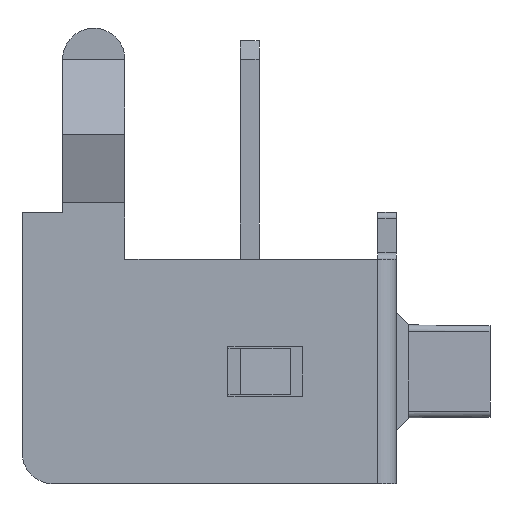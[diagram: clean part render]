
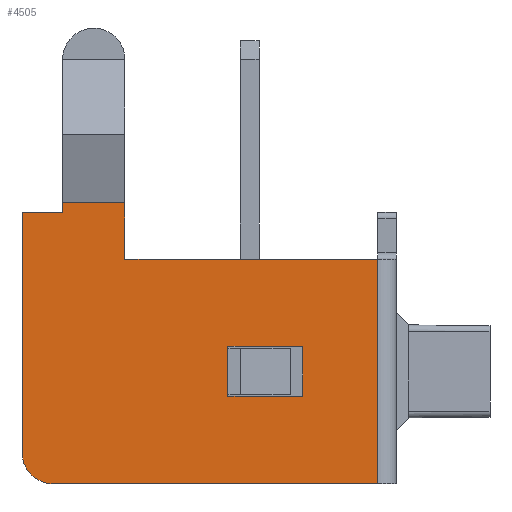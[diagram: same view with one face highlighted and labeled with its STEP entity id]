
A CAD part, left-side view. The second image highlights one B-rep face of the part: STEP entity #4505.
In plain terms, the highlighted planar face has unit normal (-1, 0, 0).
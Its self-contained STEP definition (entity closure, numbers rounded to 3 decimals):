
#3562=DIRECTION('',(0.,0.,-1.));
#3563=VECTOR('',#3562,0.8);
#3564=CARTESIAN_POINT('',(-3.75,2.4,0.4));
#3565=LINE('',#3564,#3563);
#3566=DIRECTION('',(0.,-1.,0.));
#3567=VECTOR('',#3566,1.2);
#3568=CARTESIAN_POINT('',(-3.75,2.4,-0.4));
#3569=LINE('',#3568,#3567);
#3570=DIRECTION('',(0.,0.,1.));
#3571=VECTOR('',#3570,0.8);
#3572=CARTESIAN_POINT('',(-3.75,1.2,-0.4));
#3573=LINE('',#3572,#3571);
#3574=DIRECTION('',(0.,1.,0.));
#3575=VECTOR('',#3574,1.2);
#3576=CARTESIAN_POINT('',(-3.75,1.2,0.4));
#3577=LINE('',#3576,#3575);
#3578=DIRECTION('',(0.,1.,0.));
#3579=VECTOR('',#3578,1.);
#3580=CARTESIAN_POINT('',(-3.75,4.05,2.7));
#3581=LINE('',#3580,#3579);
#3582=DIRECTION('',(0.,1.,0.));
#3583=VECTOR('',#3582,4.05);
#3584=CARTESIAN_POINT('',(-3.75,0.,1.8));
#3585=LINE('',#3584,#3583);
#3586=DIRECTION('',(0.,-1.,0.));
#3587=VECTOR('',#3586,5.2);
#3588=CARTESIAN_POINT('',(-3.75,5.2,-1.8));
#3589=LINE('',#3588,#3587);
#3590=CARTESIAN_POINT('',(-3.75,5.2,-1.3));
#3591=DIRECTION('',(-1.,0.,0.));
#3592=DIRECTION('',(0.,1.,0.));
#3593=AXIS2_PLACEMENT_3D('',#3590,#3591,#3592);
#3595=DIRECTION('',(0.,-1.,0.));
#3596=VECTOR('',#3595,0.65);
#3597=CARTESIAN_POINT('',(-3.75,5.7,2.55));
#3598=LINE('',#3597,#3596);
#3656=DIRECTION('',(0.,0.,1.));
#3657=VECTOR('',#3656,0.9);
#3658=CARTESIAN_POINT('',(-3.75,4.05,1.8));
#3659=LINE('',#3658,#3657);
#3700=DIRECTION('',(0.,0.,-1.));
#3701=VECTOR('',#3700,0.15);
#3702=CARTESIAN_POINT('',(-3.75,5.05,2.7));
#3703=LINE('',#3702,#3701);
#3720=DIRECTION('',(0.,0.,-1.));
#3721=VECTOR('',#3720,3.85);
#3722=CARTESIAN_POINT('',(-3.75,5.7,2.55));
#3723=LINE('',#3722,#3721);
#3736=DIRECTION('',(0.,0.,1.));
#3737=VECTOR('',#3736,3.6);
#3738=CARTESIAN_POINT('',(-3.75,0.,-1.8));
#3739=LINE('',#3738,#3737);
#4270=CARTESIAN_POINT('',(-3.75,0.,-1.8));
#4272=VERTEX_POINT('',#4270);
#4278=CARTESIAN_POINT('',(-3.75,4.05,1.8));
#4280=VERTEX_POINT('',#4278);
#4282=CARTESIAN_POINT('',(-3.75,0.,1.8));
#4283=VERTEX_POINT('',#4282);
#4318=CARTESIAN_POINT('',(-3.75,2.4,0.4));
#4319=CARTESIAN_POINT('',(-3.75,2.4,-0.4));
#4320=VERTEX_POINT('',#4318);
#4321=VERTEX_POINT('',#4319);
#4322=CARTESIAN_POINT('',(-3.75,1.2,-0.4));
#4323=VERTEX_POINT('',#4322);
#4324=CARTESIAN_POINT('',(-3.75,1.2,0.4));
#4325=VERTEX_POINT('',#4324);
#4362=CARTESIAN_POINT('',(-3.75,5.7,2.55));
#4363=CARTESIAN_POINT('',(-3.75,5.05,2.55));
#4364=VERTEX_POINT('',#4362);
#4365=VERTEX_POINT('',#4363);
#4390=CARTESIAN_POINT('',(-3.75,5.7,-1.3));
#4391=CARTESIAN_POINT('',(-3.75,5.2,-1.8));
#4392=VERTEX_POINT('',#4390);
#4393=VERTEX_POINT('',#4391);
#4418=CARTESIAN_POINT('',(-3.75,4.05,2.7));
#4419=VERTEX_POINT('',#4418);
#4424=CARTESIAN_POINT('',(-3.75,5.05,2.7));
#4425=VERTEX_POINT('',#4424);
#4470=CARTESIAN_POINT('',(-3.75,-0.3,1.8));
#4471=DIRECTION('',(-1.,0.,0.));
#4472=DIRECTION('',(0.,0.,1.));
#4473=AXIS2_PLACEMENT_3D('',#4470,#4471,#4472);
#4474=PLANE('',#4473);
#4476=ORIENTED_EDGE('',*,*,#4475,.F.);
#4478=ORIENTED_EDGE('',*,*,#4477,.F.);
#4480=ORIENTED_EDGE('',*,*,#4479,.F.);
#4482=ORIENTED_EDGE('',*,*,#4481,.F.);
#4484=ORIENTED_EDGE('',*,*,#4483,.F.);
#4486=ORIENTED_EDGE('',*,*,#4485,.F.);
#4488=ORIENTED_EDGE('',*,*,#4487,.F.);
#4490=ORIENTED_EDGE('',*,*,#4489,.F.);
#4492=ORIENTED_EDGE('',*,*,#4491,.T.);
#4493=EDGE_LOOP('',(#4476,#4478,#4480,#4482,#4484,#4486,#4488,#4490,#4492));
#4494=FACE_OUTER_BOUND('',#4493,.F.);
#4496=ORIENTED_EDGE('',*,*,#4495,.T.);
#4498=ORIENTED_EDGE('',*,*,#4497,.T.);
#4500=ORIENTED_EDGE('',*,*,#4499,.T.);
#4502=ORIENTED_EDGE('',*,*,#4501,.T.);
#4503=EDGE_LOOP('',(#4496,#4498,#4500,#4502));
#4504=FACE_BOUND('',#4503,.F.);
#3594=CIRCLE('',#3593,0.5);
#4475=EDGE_CURVE('',#4425,#4365,#3703,.T.);
#4477=EDGE_CURVE('',#4419,#4425,#3581,.T.);
#4479=EDGE_CURVE('',#4280,#4419,#3659,.T.);
#4481=EDGE_CURVE('',#4283,#4280,#3585,.T.);
#4483=EDGE_CURVE('',#4272,#4283,#3739,.T.);
#4485=EDGE_CURVE('',#4393,#4272,#3589,.T.);
#4487=EDGE_CURVE('',#4392,#4393,#3594,.T.);
#4489=EDGE_CURVE('',#4364,#4392,#3723,.T.);
#4491=EDGE_CURVE('',#4364,#4365,#3598,.T.);
#4495=EDGE_CURVE('',#4320,#4321,#3565,.T.);
#4497=EDGE_CURVE('',#4321,#4323,#3569,.T.);
#4499=EDGE_CURVE('',#4323,#4325,#3573,.T.);
#4501=EDGE_CURVE('',#4325,#4320,#3577,.T.);
#4505=ADVANCED_FACE('',(#4494,#4504),#4474,.T.);
